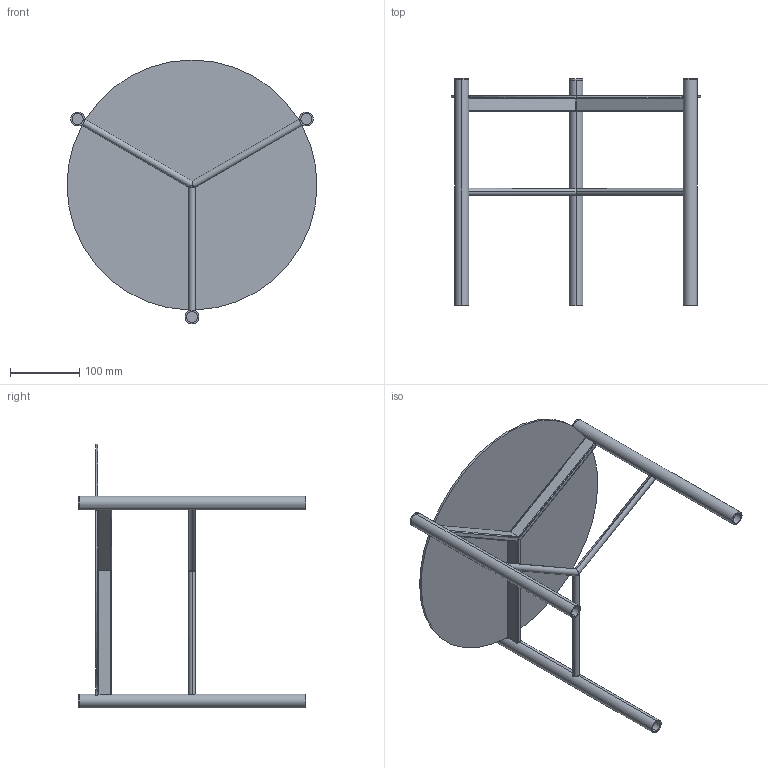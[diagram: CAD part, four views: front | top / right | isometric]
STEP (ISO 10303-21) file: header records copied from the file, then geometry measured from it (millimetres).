
FILE_DESCRIPTION (( 'STEP AP203' ), '1' );
FILE_NAME ('J401S.STEP', '2024-08-06T11:24:43', ( '' ), ( '' ), 'SwSTEP 2.0', 'SolidWorks 2022', '' );
FILE_SCHEMA (( 'CONFIG_CONTROL_DESIGN' ));
Length unit declared in the file: millimetre
Products named in the file (2): J401S; JXXXS00000000-00-jack metallo grezzo tutte le misure_J5B000001-JACK TAVOLINO D.36x31h<A macchina>
Assembly tree (1 placements, depth 2):
  J401S
    JXXXS00000000-00-jack metallo grezzo tutte le misure_J5B000001-JACK TAVOLINO D.36x31h<A macchina>
Bounding box: 359.95 x 327 x 380.07 mm (x, y, z)
Volume: 459941.1 mm3; surface area: 405519.1 mm2
Topology: 13 solids, 13 shells, 121 faces, 287 edges, 190 vertices
Faces by surface type: cylinder 71, plane 50
Entity records: 4317 total; most frequent: CARTESIAN_POINT 1434, ORIENTED_EDGE 574, DIRECTION 521, EDGE_CURVE 287, VERTEX_POINT 190, AXIS2_PLACEMENT_3D 187, LINE 147, VECTOR 147
